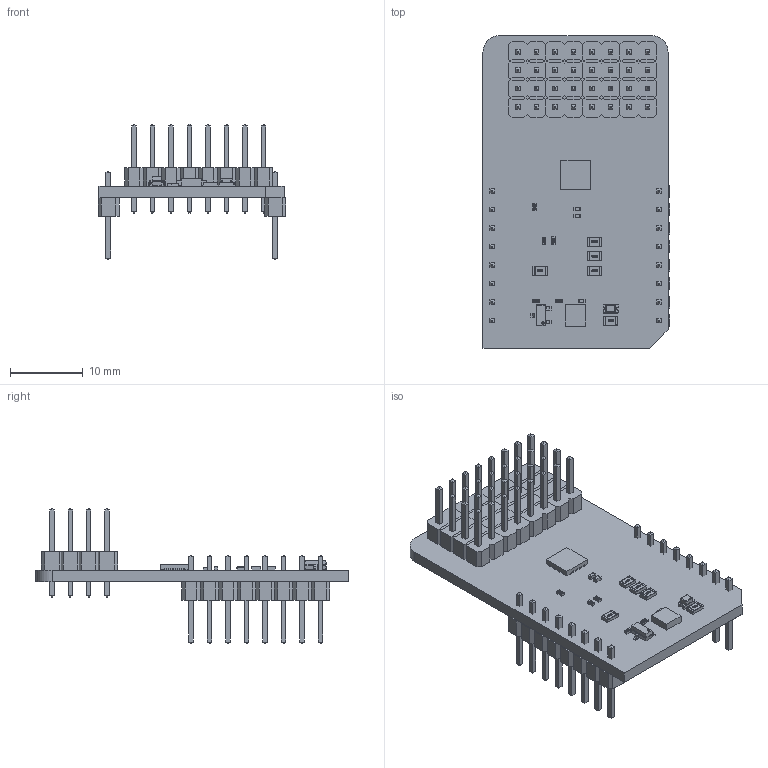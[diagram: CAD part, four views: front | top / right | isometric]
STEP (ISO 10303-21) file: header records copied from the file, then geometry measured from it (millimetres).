
FILE_DESCRIPTION(('Open CASCADE Model'),'2;1');
FILE_NAME('Open CASCADE Shape Model','2025-10-16T12:46:35',('Author'),( 'Open CASCADE'),'Open CASCADE STEP processor 6.8','Open CASCADE 6.8' ,'Unknown');
FILE_SCHEMA(('AUTOMOTIVE_DESIGN { 1 0 10303 214 1 1 1 1 }'));
Length unit declared in the file: millimetre
Products named in the file (39): PCB; Board; R1; User_Library-R_0805; LD1; led_0805_green; R2; User_Library-R_0402; C1; User_Library-SMD_CAPACITOR0402; R4; Q1; SOT23-3; U1; 1183135600; Extruded; MBD1; Header_1x8; Free-Models; 1240637040; User_Library-PinHeaderX5-1_PinHeaderX5_Body_1; User_Library-PinHeaderX5-1_PinHeaderX5_Pins_1; JP2; C2; C3; J1; User_Library-Pin_Header_Strip_1x2; J2; J3; J4; JP3; JP4; JP1; R3; R5; U2; CP2110-F01-GM; R6
Assembly tree (65 placements, depth 7):
  PCB
    Board
    R1
      User_Library-R_0805
    LD1
      led_0805_green
    R2
      User_Library-R_0402
    C1
      User_Library-SMD_CAPACITOR0402
    R4
      User_Library-R_0402
    Q1
      SOT23-3
    U1
      1183135600
        Extruded
    MBD1
      Header_1x8  x2
        PCB
          Free-Models
            1240637040  x2
              User_Library-PinHeaderX5-1_PinHeaderX5_Body_1
              User_Library-PinHeaderX5-1_PinHeaderX5_Pins_1
    JP2
      User_Library-R_0805
    C2
      User_Library-SMD_CAPACITOR0402
    C3
      User_Library-SMD_CAPACITOR0402
    J1
      User_Library-Pin_Header_Strip_1x2  x4
    J2
      User_Library-Pin_Header_Strip_1x2  x4
    J3
      User_Library-Pin_Header_Strip_1x2  x4
    J4
      User_Library-Pin_Header_Strip_1x2  x4
    JP3
      User_Library-R_0805
    JP4
      User_Library-R_0805
    JP1
      User_Library-R_0805
    R3
      User_Library-R_0402
    R5
      User_Library-R_0402
    U2
      CP2110-F01-GM
    R6
      User_Library-R_0402
Bounding box: 25.78 x 42.93 x 18.62 mm (x, y, z)
Volume: 2916.1 mm3; surface area: 5775.4 mm2
Topology: 97 solids, 97 shells, 2723 faces, 6648 edges, 4240 vertices
Faces by surface type: plane 2280, bspline 340, cylinder 73, sphere 30
Entity records: 30096 total; most frequent: CARTESIAN_POINT 8343, ORIENTED_EDGE 3772, DIRECTION 3385, EDGE_CURVE 1886, LINE 1661, VECTOR 1661, VERTEX_POINT 1220, AXIS2_PLACEMENT_3D 862
